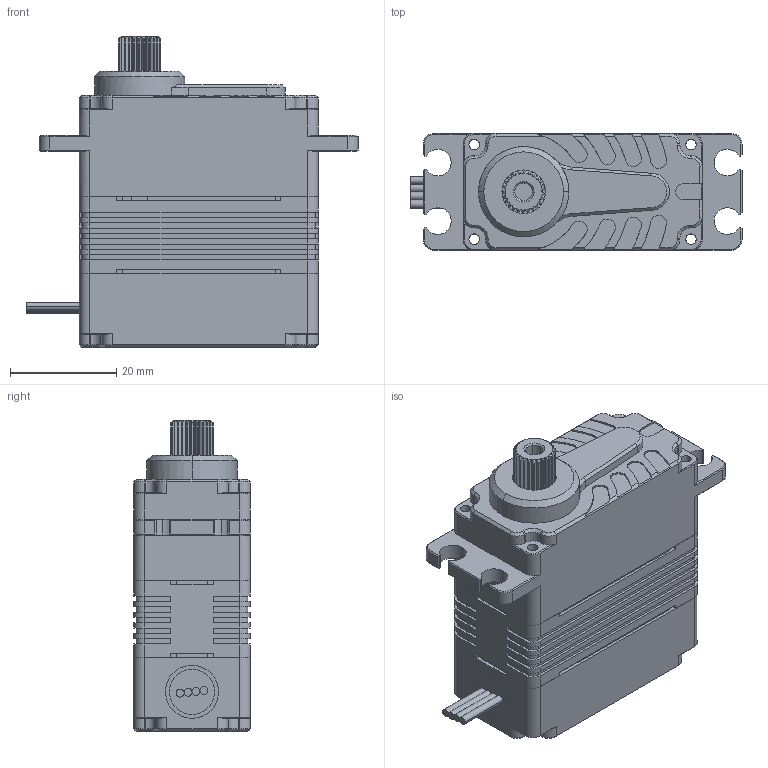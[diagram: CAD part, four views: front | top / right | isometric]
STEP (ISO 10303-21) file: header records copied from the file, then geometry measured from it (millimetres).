
FILE_DESCRIPTION (( 'STEP AP214' ), '1' );
FILE_NAME ('X22-12-M-860-X_DM_20220422.STEP', '2022-04-24T03:37:38', ( '微软用户' ), ( '微软中国' ), 'SwSTEP 2.0', 'SolidWorks 2016', '' );
FILE_SCHEMA (( 'AUTOMOTIVE_DESIGN' ));
Length unit declared in the file: millimetre
Products named in the file (1): X22-12-M-860-X_DM_20220422
Bounding box: 62.5 x 22 x 58.6 mm (x, y, z)
Surface area: 11716.1 mm2 (no closed solid volume)
Topology: 0 solids, 11 shells, 619 faces, 1826 edges, 1208 vertices
Faces by surface type: plane 319, cylinder 225, cone 75
Entity records: 27409 total; most frequent: CARTESIAN_POINT 3945, DIRECTION 3557, ORIENTED_EDGE 3382, EDGE_CURVE 1826, VERTEX_POINT 1208, AXIS2_PLACEMENT_3D 1206, LINE 1145, VECTOR 1145
